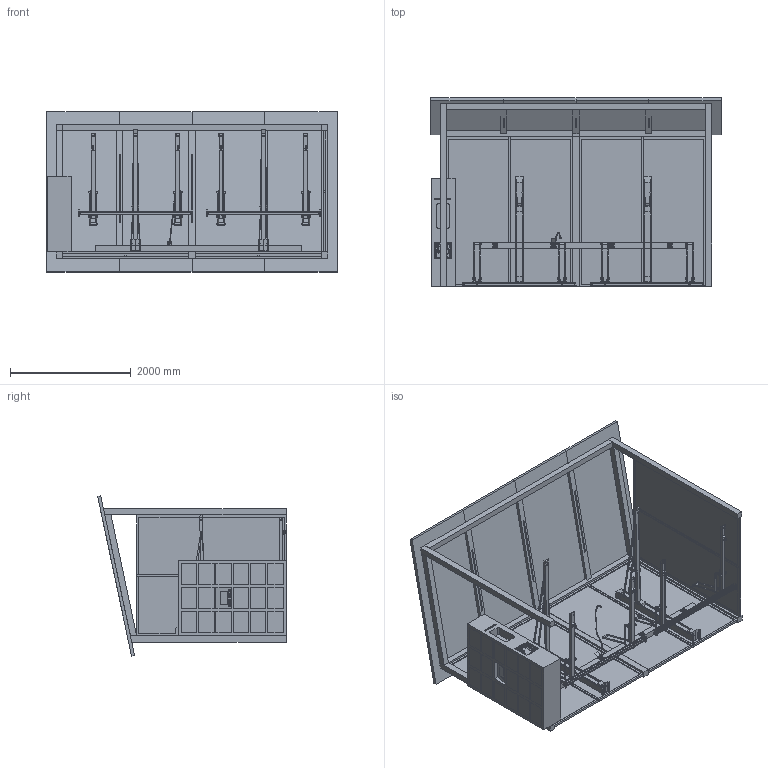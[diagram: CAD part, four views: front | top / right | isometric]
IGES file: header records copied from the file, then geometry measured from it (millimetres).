
Start section: SolidWorks IGES file using analytic representation for surfaces
Global section: file name: I:\(H)\(G) NEW PROJECT-BUSINESS\ULRICH PROJECT\Smart locker\WYE1810B.IGS; native system: SolidWorks 2025; preprocessor: SolidWorks 2025; author: User; date: 251006.110328; units: centimetre
Bounding box: 4800 x 3118.7 x 2651.45 mm (x, y, z)
Surface area: 118468586.3 mm2 (no closed solid volume)
Topology: 0 solids, 0 shells, 6371 faces, 48389 edges, 48241 vertices
Faces by surface type: bspline 4844, revolution 1527
